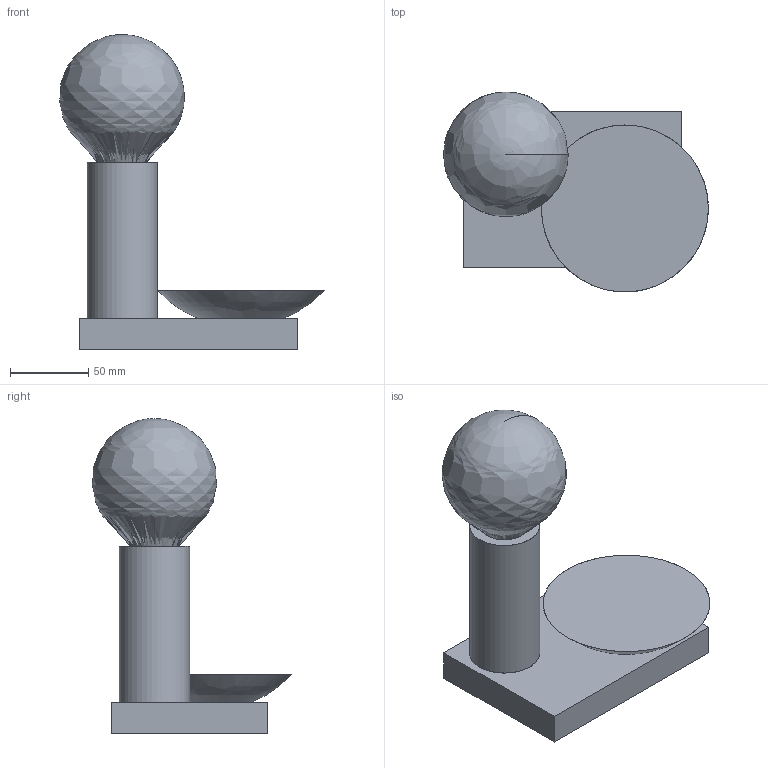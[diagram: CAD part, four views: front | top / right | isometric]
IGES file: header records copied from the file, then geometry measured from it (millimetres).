
Global section: file name: /Users/064_p/Desktop/3d data_02/ILKW_MARIO14_Table_3D.igs; native system: Rhinoceros ( Jul  7 2025 ); preprocessor: Trout Lake IGES 012 Jul  7 2025; date: 260828.082751; units: millimetre
Bounding box: 169.65 x 127.91 x 201.73 mm (x, y, z)
Surface area: 84346.5 mm2 (no closed solid volume)
Topology: 0 solids, 0 shells, 11 faces, 55 edges, 50 vertices
Faces by surface type: bspline 11
